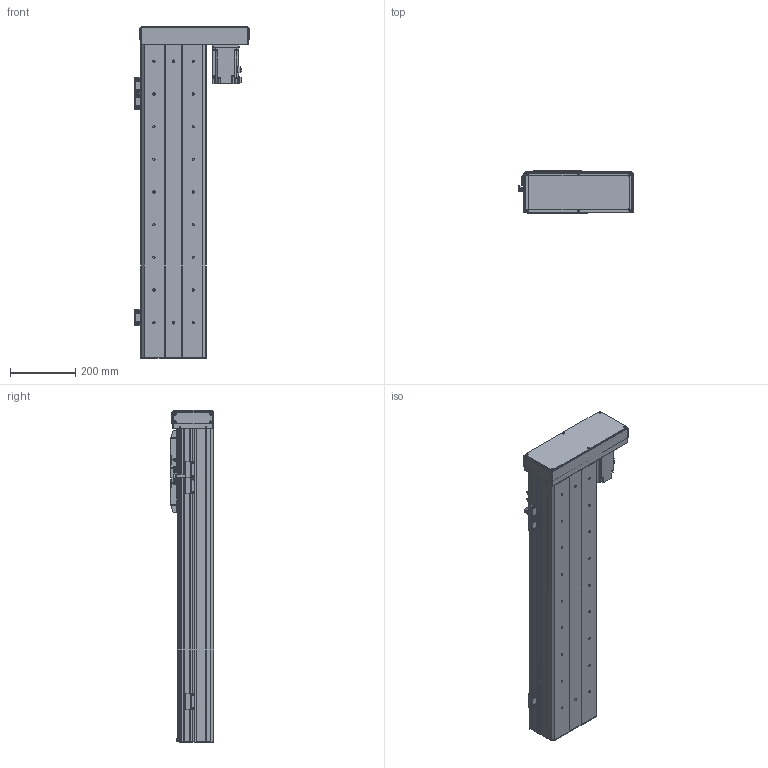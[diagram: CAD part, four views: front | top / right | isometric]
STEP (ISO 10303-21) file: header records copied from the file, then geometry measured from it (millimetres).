
FILE_DESCRIPTION(/* description */ ('MANUFACTURE'),/* implementation_level */ '2;1');
FILE_NAME(/* name */ '\\192.168.0.160\disk1\HAN SHIN Master\B-설계부문\C-표준\B-2024년\BC02-표준도면\+로봇 개선표준도면\표준 승인도 폴더 - 재작업\3D\HC Type\HC200\우병렬\HC200-R70-N-0700-L10.stp',/* time_stamp */ '2024-03-25T10:27:05+09:00',/* author */ ('User'),/* organization */ (''),/* preprocessor_version */ 'ST-DEVELOPER v18.1',/* originating_system */ 'Autodesk Inventor 2022',/* authorisation */ 'LIP');
FILE_SCHEMA (('AUTOMOTIVE_DESIGN { 1 0 10303 214 3 1 1 }'));
Products named in the file (28): HC200-R70-N-0500-L10 - 간소화; HC200 S BASE F - 1100ST; HC90 REAR COVER; HC200 TABLE COVER - 개주; HC200-STEEL SHEET F - 1100ST; LMKE2020 NUT; HR180 FRONT BLOCK; HR120 STOPPER; HC200 TABLE; HR180 FRONT BLOCK_1; HC200 SIDE COVER F - 1100ST; HC140 SHEET PLATE; HC65 TABLE SIDE COVER; M-5UT; M-5H-4; hg-kr73_; 750W MOTOR PLATE; HR200 ACRYL COVER -1; HR200 ACRYL COVER -1_1; HR160 400W LR BELT COVER; HR200 ACRYL COVER -1_2; 화살표; HG200 750W LR MOTOR PLATE_MIR; HC75 SENSOR DOG; SENSOR BRK(EE-SX674A); EE_SX674A; hsr_ftht_A-M6F_grease_nipple_joint; NIPPLE CAP(신규)
Assembly tree (49 placements, depth 2):
  HC200-R70-N-0500-L10 - 간소화
    HC200 S BASE F - 1100ST
    HC90 REAR COVER
    HC200 TABLE COVER - 개주
    HC65 TABLE SIDE COVER  x2
    HC200-STEEL SHEET F - 1100ST
    LMKE2020 NUT
    HR120 STOPPER  x2
    HR180 FRONT BLOCK
    HC200 SIDE COVER F - 1100ST  x2
    HC200 TABLE
    HR180 FRONT BLOCK_1
    HC140 SHEET PLATE  x2
    hsr_ftht_A-M6F_grease_nipple_joint  x5
    NIPPLE CAP(신규)  x5
    M-5UT  x2
    M-5H-4  x4
    hg-kr73_
    750W MOTOR PLATE
    HR200 ACRYL COVER -1
    HR200 ACRYL COVER -1_1
    HR200 ACRYL COVER -1_2  x2
    HR160 400W LR BELT COVER
    화살표  x2
    HG200 750W LR MOTOR PLATE_MIR
    HC75 SENSOR DOG
    SENSOR BRK(EE-SX674A)  x3
    EE_SX674A  x3
Bounding box: 351 x 132 x 1016 mm (x, y, z)
Volume: 8308739.8 mm3; surface area: 2438275.1 mm2
Topology: 51 solids, 51 shells, 4371 faces, 11898 edges, 7815 vertices
Faces by surface type: plane 3038, cylinder 887, cone 352, sphere 44, torus 30, bspline 20
Full cylindrical faces by diameter (mm): 1.8 x4, 2 x6, 2.459 x58, 2.5 x6, 3 x16, 3.242 x23, 3.4 x24, 3.5 x12, 4 x6, 4.134 x12, 4.5 x26, 4.917 x29, 5 x26, 5.5 x5, 5.6 x5, 5.9 x4, 6 x11, 6.5 x14, 6.6 x32, 6.647 x28, 6.8 x2, 7 x10, 7.6 x4, 8 x6, 9 x10, 9.5 x1, 10.5 x8, 11 x36, 19 x1, 20 x1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
Entity records: 112565 total; most frequent: CARTESIAN_POINT 20511, ORIENTED_EDGE 19052, DIRECTION 18046, EDGE_CURVE 9526, LINE 7844, VECTOR 7844, VERTEX_POINT 6341, AXIS2_PLACEMENT_3D 5101
